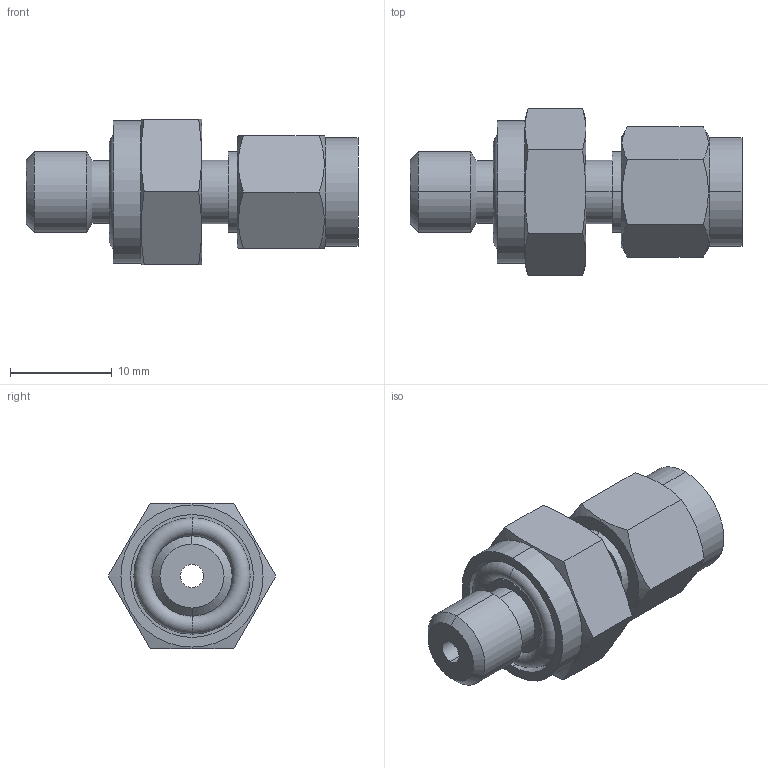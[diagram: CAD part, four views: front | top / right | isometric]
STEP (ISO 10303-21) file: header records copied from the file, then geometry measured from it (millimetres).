
FILE_DESCRIPTION (( 'STEP AP203' ), '1' );
FILE_NAME ('DCO02-02 SS.STEP', '2009-10-08T08:01:36', ( ' ' ), ( '' ), 'SwSTEP 2.0', 'SolidWorks 2008', '' );
FILE_SCHEMA (( 'CONFIG_CONTROL_DESIGN' ));
Length unit declared in the file: millimetre
Products named in the file (1): DCO02-02 SS
Bounding box: 32.7 x 16.5 x 14.29 mm (x, y, z)
Volume: 2977 mm3; surface area: 2150.6 mm2
Topology: 2 solids, 2 shells, 61 faces, 136 edges, 84 vertices
Faces by surface type: plane 21, cylinder 20, cone 16, torus 4
Entity records: 1883 total; most frequent: CARTESIAN_POINT 466, DIRECTION 282, ORIENTED_EDGE 272, EDGE_CURVE 136, AXIS2_PLACEMENT_3D 120, VERTEX_POINT 84, EDGE_LOOP 70, ADVANCED_FACE 61
